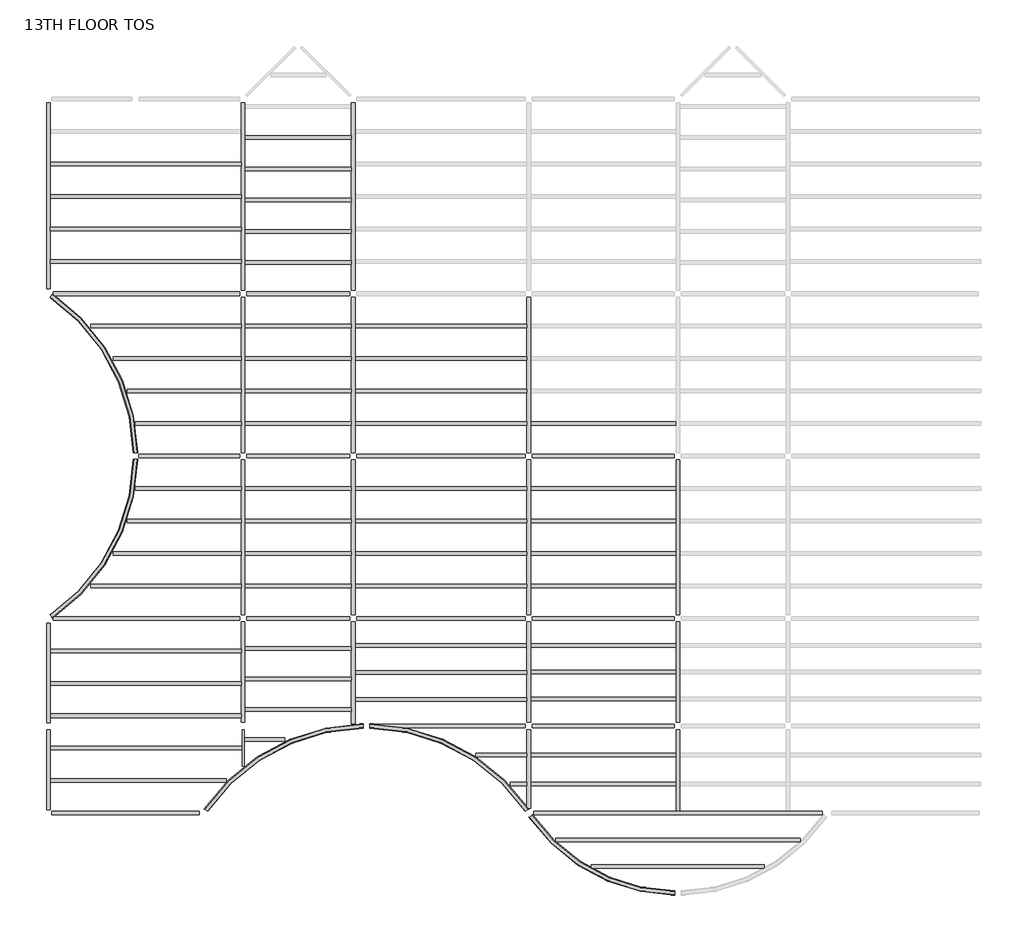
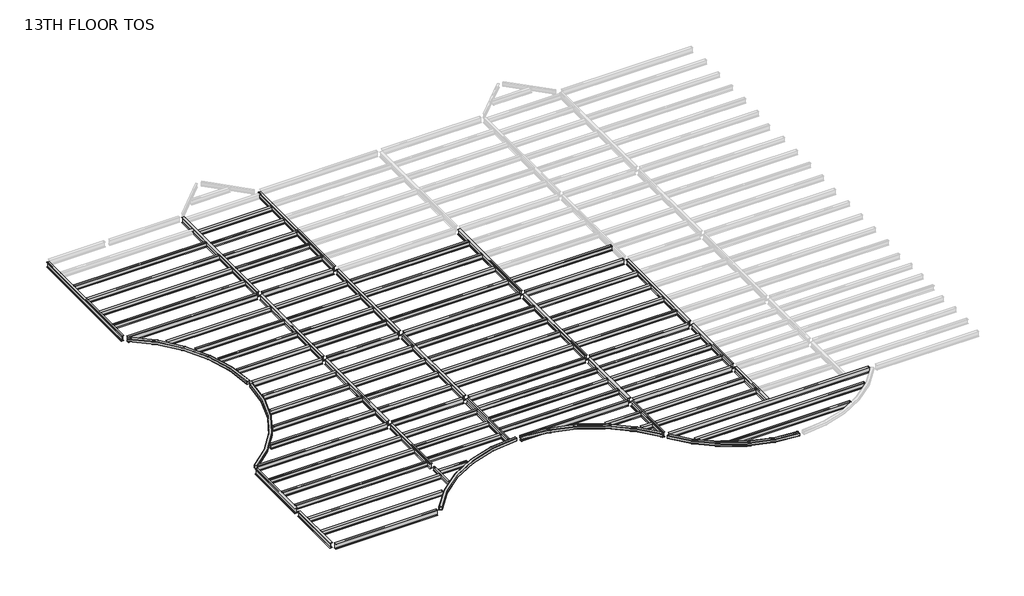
# One storey, part 1 of 2: 97 beams.
"""IFC4 building model written with IfcOpenShell, lengths in millimetres."""

from ifc_helpers import new_model, si_unit, origin, place, context, project, spatial, transform, mapped, element, save
from components import m_hss_square_hss203_2x203_2x9_5_914ff4eb, m_hss_square_hss203_2x203_2x9_5_0e3d8e6e, m_hss_square_hss203_2x203_2x9_5_16dc1c03, m_hss_square_hss203_2x203_2x9_5_18346204, m_hss_square_hss203_2x203_2x9_5_d5f1e8c4, ub_universal_beams_ub254x102x28_4e7f3726, ub_universal_beams_ub305x165x40_c4d0385b, ub_universal_beams_ub305x165x40_d3abc31d, ub_universal_beams_ub305x165x40_0c73730f, ub_universal_beams_ub305x165x40_2a963f0c, ub_universal_beams_ub305x165x40_0a5f2f96, ub_universal_beams_ub305x165x40_d1f7c369, ub_universal_beams_ub305x165x40_83d7b7d5, ub_universal_beams_ub305x165x40_729a4ea5, ub_universal_beams_ub305x165x40_71dfa851, ub_universal_beams_ub305x165x40_619b5398, ub_universal_beams_ub305x165x40_c3492db1, ub_universal_beams_ub305x165x40_8f1c350d, ub_universal_beams_ub305x165x40_3afb5f90, ub_universal_beams_ub305x165x40_767d1929, ub_universal_beams_ub305x165x40_5941ca45, ub_universal_beams_ub356x171x51_ef72dcdd, ub_universal_beams_ub356x171x51_7f80702c, ub_universal_beams_ub356x171x51_dfc36663, ub_universal_beams_ub356x171x51_405a853e, ub_universal_beams_ub356x171x51_e47b7055, ub_universal_beams_ub356x171x51_e97f8d2e, ub_universal_beams_ub356x171x51_11d6b780, ub_universal_beams_ub356x171x51_76b2d20b, ub_universal_beams_ub356x171x51_145ecd4b, ub_universal_beams_ub356x171x51_c7dff8d2, ub_universal_beams_ub356x171x51_834c6e34, ub_universal_beams_ub356x171x51_a38b99de, ub_universal_beams_ub356x171x51_d8f4cdde, ub_universal_beams_ub356x171x51_8094f821, ub_universal_beams_ub356x171x51_c03c70fb, ub_universal_beams_ub356x171x51_e661f2e4, ub_universal_beams_ub356x171x51_3ee91673, ub_universal_beams_ub356x171x51_a871b283, ub_universal_beams_ub356x171x51_741bae58

model = new_model("IFC4")

# Units and contexts
model_context = context("Model", 3, world=origin())
ifc_project = project(units=[si_unit("LENGTHUNIT", "METRE", prefix="MILLI")], contexts=[model_context])

# Site, building, storey
site = spatial("IfcSite", under=ifc_project)
building = spatial("IfcBuilding", under=site)
storey = spatial("IfcBuildingStorey", under=building, Name="13TH FLOOR TOS", Elevation=59283.6)

# Beams
placement = place(None, origin())
m_hss_square_hss203_2x203_2x9_5_shape = m_hss_square_hss203_2x203_2x9_5_914ff4eb(model_context)
element("IfcBeam", 1, ObjectType="M_HSS Square : HSS203.2X203.2X9.5", at=placement, inside=storey, context=model_context, shape_type="MappedRepresentation", body=[
    mapped(m_hss_square_hss203_2x203_2x9_5_shape, transform((22710.575, 155.575, 59182.1), x_axis=(-0.552849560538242, 0.8332810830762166, 0.0), y_axis=(-0.8332810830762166, -0.552849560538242, 0.0), z_axis=(0.0, 0.0, 1.0))),
])
m_hss_square_hss203_2x203_2x9_5_2_shape = m_hss_square_hss203_2x203_2x9_5_0e3d8e6e(model_context)
element("IfcBeam", 2, ObjectType="M_HSS Square : HSS203.2X203.2X9.5", at=placement, inside=storey, context=model_context, shape_type="MappedRepresentation", body=[
    mapped(m_hss_square_hss203_2x203_2x9_5_2_shape, transform((155.575, 9299.575, 59182.1), x_axis=(0.8332810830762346, 0.5528495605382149, 0.0), y_axis=(-0.5528495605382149, 0.8332810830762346, 0.0), z_axis=(0.0, 0.0, 1.0))),
])
m_hss_square_hss203_2x203_2x9_5_3_shape = m_hss_square_hss203_2x203_2x9_5_16dc1c03(model_context)
element("IfcBeam", 3, ObjectType="M_HSS Square : HSS203.2X203.2X9.5", at=placement, inside=storey, context=model_context, shape_type="MappedRepresentation", body=[
    mapped(m_hss_square_hss203_2x203_2x9_5_3_shape, transform((155.575, 24539.575, 59182.1), x_axis=(0.8332810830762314, -0.5528495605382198, 0.0), y_axis=(0.5528495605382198, 0.8332810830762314, 0.0), z_axis=(0.0, 0.0, 1.0))),
])
m_hss_square_hss203_2x203_2x9_5_4_shape = m_hss_square_hss203_2x203_2x9_5_18346204(model_context)
element("IfcBeam", 4, ObjectType="M_HSS Square : HSS203.2X203.2X9.5", at=placement, inside=storey, context=model_context, shape_type="MappedRepresentation", body=[
    mapped(m_hss_square_hss203_2x203_2x9_5_4_shape, transform((29734.7266693, -3601.398624, 59182.1), x_axis=(-0.9999968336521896, -0.0025164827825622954, 0.0), y_axis=(0.0025164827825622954, -0.9999968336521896, 0.0), z_axis=(0.0, 0.0, 1.0))),
])
m_hss_square_hss203_2x203_2x9_5_5_shape = m_hss_square_hss203_2x203_2x9_5_d5f1e8c4(model_context)
element("IfcBeam", 5, ObjectType="M_HSS Square : HSS203.2X203.2X9.5", at=placement, inside=storey, context=model_context, shape_type="MappedRepresentation", body=[
    mapped(m_hss_square_hss203_2x203_2x9_5_5_shape, transform((15096.4572854, 4244.5731081, 59182.1), x_axis=(-0.9999997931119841, 0.0006432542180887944, 0.0), y_axis=(-0.0006432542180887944, -0.9999997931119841, 0.0), z_axis=(0.0, 0.0, 1.0))),
])
ub_universal_beams_ub254x102x28_shape = ub_universal_beams_ub254x102x28_4e7f3726(model_context)
element("IfcBeam", 6, ObjectType="UB-Universal Beams : UB254x102x28", at=placement, inside=storey, context=model_context, shape_type="MappedRepresentation", body=[
    mapped(ub_universal_beams_ub254x102x28_shape, transform((9299.575, 3210.915913, 59153.4), x_axis=(0.0, -1.0, 0.0), y_axis=(1.0, 0.0, 0.0), z_axis=(0.0, 0.0, 1.0))),
])
ub_universal_beams_ub305x165x40_shape = ub_universal_beams_ub305x165x40_c4d0385b(model_context)
element("IfcBeam", 7, ObjectType="UB-Universal Beams : UB305x165x40", at=placement, inside=storey, context=model_context, shape_type="MappedRepresentation", body=[
    mapped(ub_universal_beams_ub305x165x40_shape, transform((4727.575, 30635.575, 59131.9), x_axis=(1.0, 0.0, 0.0), y_axis=(0.0, 1.0, 0.0), z_axis=(0.0, 0.0, 1.0))),
])
element("IfcBeam", 8, ObjectType="UB-Universal Beams : UB305x165x40", at=placement, inside=storey, context=model_context, shape_type="MappedRepresentation", body=[
    mapped(ub_universal_beams_ub305x165x40_shape, transform((4727.575, 29111.575, 59131.9), x_axis=(1.0, 0.0, 0.0), y_axis=(0.0, 1.0, 0.0), z_axis=(0.0, 0.0, 1.0))),
])
element("IfcBeam", 9, ObjectType="UB-Universal Beams : UB305x165x40", at=placement, inside=storey, context=model_context, shape_type="MappedRepresentation", body=[
    mapped(ub_universal_beams_ub305x165x40_shape, transform((4727.575, 27587.575, 59131.9), x_axis=(1.0, 0.0, 0.0), y_axis=(0.0, 1.0, 0.0), z_axis=(0.0, 0.0, 1.0))),
])
element("IfcBeam", 10, ObjectType="UB-Universal Beams : UB305x165x40", at=placement, inside=storey, context=model_context, shape_type="MappedRepresentation", body=[
    mapped(ub_universal_beams_ub305x165x40_shape, transform((4727.575, 26063.575, 59131.9), x_axis=(1.0, 0.0, 0.0), y_axis=(0.0, 1.0, 0.0), z_axis=(0.0, 0.0, 1.0))),
])
element("IfcBeam", 11, ObjectType="UB-Universal Beams : UB305x165x40", at=placement, inside=storey, context=model_context, shape_type="MappedRepresentation", body=[
    mapped(ub_universal_beams_ub305x165x40_shape, transform((4727.575, 4727.575, 59131.9), x_axis=(-1.0, 0.0, 0.0), y_axis=(0.0, -1.0, 0.0), z_axis=(0.0, 0.0, 1.0))),
])
element("IfcBeam", 12, ObjectType="UB-Universal Beams : UB305x165x40", at=placement, inside=storey, context=model_context, shape_type="MappedRepresentation", body=[
    mapped(ub_universal_beams_ub305x165x40_shape, transform((4727.575, 6251.575, 59131.9), x_axis=(-1.0, 0.0, 0.0), y_axis=(0.0, -1.0, 0.0), z_axis=(0.0, 0.0, 1.0))),
])
element("IfcBeam", 13, ObjectType="UB-Universal Beams : UB305x165x40", at=placement, inside=storey, context=model_context, shape_type="MappedRepresentation", body=[
    mapped(ub_universal_beams_ub305x165x40_shape, transform((4727.575, 7775.575, 59131.9), x_axis=(-1.0, 0.0, 0.0), y_axis=(0.0, -1.0, 0.0), z_axis=(0.0, 0.0, 1.0))),
])
ub_universal_beams_ub305x165x40_2_shape = ub_universal_beams_ub305x165x40_d3abc31d(model_context)
element("IfcBeam", 14, ObjectType="UB-Universal Beams : UB305x165x40", at=placement, inside=storey, context=model_context, shape_type="MappedRepresentation", body=[
    mapped(ub_universal_beams_ub305x165x40_2_shape, transform((11885.575, 31870.825, 59131.9), x_axis=(1.0, 0.0, 0.0), y_axis=(0.0, 1.0, 0.0), z_axis=(0.0, 0.0, 1.0))),
])
element("IfcBeam", 15, ObjectType="UB-Universal Beams : UB305x165x40", at=placement, inside=storey, context=model_context, shape_type="MappedRepresentation", body=[
    mapped(ub_universal_beams_ub305x165x40_2_shape, transform((11885.575, 30404.575, 59131.9), x_axis=(1.0, 0.0, 0.0), y_axis=(0.0, 1.0, 0.0), z_axis=(0.0, 0.0, 1.0))),
])
element("IfcBeam", 16, ObjectType="UB-Universal Beams : UB305x165x40", at=placement, inside=storey, context=model_context, shape_type="MappedRepresentation", body=[
    mapped(ub_universal_beams_ub305x165x40_2_shape, transform((11885.575, 28938.325, 59131.9), x_axis=(1.0, 0.0, 0.0), y_axis=(0.0, 1.0, 0.0), z_axis=(0.0, 0.0, 1.0))),
])
element("IfcBeam", 17, ObjectType="UB-Universal Beams : UB305x165x40", at=placement, inside=storey, context=model_context, shape_type="MappedRepresentation", body=[
    mapped(ub_universal_beams_ub305x165x40_2_shape, transform((11885.575, 27472.075, 59131.9), x_axis=(1.0, 0.0, 0.0), y_axis=(0.0, 1.0, 0.0), z_axis=(0.0, 0.0, 1.0))),
])
element("IfcBeam", 18, ObjectType="UB-Universal Beams : UB305x165x40", at=placement, inside=storey, context=model_context, shape_type="MappedRepresentation", body=[
    mapped(ub_universal_beams_ub305x165x40_2_shape, transform((11885.575, 26005.825, 59131.9), x_axis=(1.0, 0.0, 0.0), y_axis=(0.0, 1.0, 0.0), z_axis=(0.0, 0.0, 1.0))),
])
element("IfcBeam", 19, ObjectType="UB-Universal Beams : UB305x165x40", at=placement, inside=storey, context=model_context, shape_type="MappedRepresentation", body=[
    mapped(ub_universal_beams_ub305x165x40_2_shape, transform((11885.575, 23015.575, 59131.9), x_axis=(1.0, 0.0, 0.0), y_axis=(0.0, 1.0, 0.0), z_axis=(0.0, 0.0, 1.0))),
])
element("IfcBeam", 20, ObjectType="UB-Universal Beams : UB305x165x40", at=placement, inside=storey, context=model_context, shape_type="MappedRepresentation", body=[
    mapped(ub_universal_beams_ub305x165x40_2_shape, transform((11885.575, 21491.575, 59131.9), x_axis=(1.0, 0.0, 0.0), y_axis=(0.0, 1.0, 0.0), z_axis=(0.0, 0.0, 1.0))),
])
element("IfcBeam", 21, ObjectType="UB-Universal Beams : UB305x165x40", at=placement, inside=storey, context=model_context, shape_type="MappedRepresentation", body=[
    mapped(ub_universal_beams_ub305x165x40_2_shape, transform((11885.575, 19967.575, 59131.9), x_axis=(1.0, 0.0, 0.0), y_axis=(0.0, 1.0, 0.0), z_axis=(0.0, 0.0, 1.0))),
])
element("IfcBeam", 22, ObjectType="UB-Universal Beams : UB305x165x40", at=placement, inside=storey, context=model_context, shape_type="MappedRepresentation", body=[
    mapped(ub_universal_beams_ub305x165x40_2_shape, transform((11885.575, 18443.575, 59131.9), x_axis=(1.0, 0.0, 0.0), y_axis=(0.0, 1.0, 0.0), z_axis=(0.0, 0.0, 1.0))),
])
element("IfcBeam", 23, ObjectType="UB-Universal Beams : UB305x165x40", at=placement, inside=storey, context=model_context, shape_type="MappedRepresentation", body=[
    mapped(ub_universal_beams_ub305x165x40_2_shape, transform((11885.575, 15395.575, 59131.9), x_axis=(1.0, 0.0, 0.0), y_axis=(0.0, 1.0, 0.0), z_axis=(0.0, 0.0, 1.0))),
])
element("IfcBeam", 24, ObjectType="UB-Universal Beams : UB305x165x40", at=placement, inside=storey, context=model_context, shape_type="MappedRepresentation", body=[
    mapped(ub_universal_beams_ub305x165x40_2_shape, transform((11885.575, 13871.575, 59131.9), x_axis=(1.0, 0.0, 0.0), y_axis=(0.0, 1.0, 0.0), z_axis=(0.0, 0.0, 1.0))),
])
element("IfcBeam", 25, ObjectType="UB-Universal Beams : UB305x165x40", at=placement, inside=storey, context=model_context, shape_type="MappedRepresentation", body=[
    mapped(ub_universal_beams_ub305x165x40_2_shape, transform((11885.575, 12347.575, 59131.9), x_axis=(1.0, 0.0, 0.0), y_axis=(0.0, 1.0, 0.0), z_axis=(0.0, 0.0, 1.0))),
])
element("IfcBeam", 26, ObjectType="UB-Universal Beams : UB305x165x40", at=placement, inside=storey, context=model_context, shape_type="MappedRepresentation", body=[
    mapped(ub_universal_beams_ub305x165x40_2_shape, transform((11885.575, 10823.575, 59131.9), x_axis=(1.0, 0.0, 0.0), y_axis=(0.0, 1.0, 0.0), z_axis=(0.0, 0.0, 1.0))),
])
element("IfcBeam", 27, ObjectType="UB-Universal Beams : UB305x165x40", at=placement, inside=storey, context=model_context, shape_type="MappedRepresentation", body=[
    mapped(ub_universal_beams_ub305x165x40_2_shape, transform((11885.575, 5026.1840956, 59131.9), x_axis=(-1.0, 0.0, 0.0), y_axis=(0.0, -1.0, 0.0), z_axis=(0.0, 0.0, 1.0))),
])
element("IfcBeam", 28, ObjectType="UB-Universal Beams : UB305x165x40", at=placement, inside=storey, context=model_context, shape_type="MappedRepresentation", body=[
    mapped(ub_universal_beams_ub305x165x40_2_shape, transform((11885.575, 6450.6477304, 59131.9), x_axis=(-1.0, 0.0, 0.0), y_axis=(0.0, -1.0, 0.0), z_axis=(0.0, 0.0, 1.0))),
])
element("IfcBeam", 29, ObjectType="UB-Universal Beams : UB305x165x40", at=placement, inside=storey, context=model_context, shape_type="MappedRepresentation", body=[
    mapped(ub_universal_beams_ub305x165x40_2_shape, transform((11885.575, 7875.1113652, 59131.9), x_axis=(-1.0, 0.0, 0.0), y_axis=(0.0, -1.0, 0.0), z_axis=(0.0, 0.0, 1.0))),
])
ub_universal_beams_ub305x165x40_3_shape = ub_universal_beams_ub305x165x40_0c73730f(model_context)
element("IfcBeam", 30, ObjectType="UB-Universal Beams : UB305x165x40", at=placement, inside=storey, context=model_context, shape_type="MappedRepresentation", body=[
    mapped(ub_universal_beams_ub305x165x40_3_shape, transform((18591.075, 5492.5943214, 59131.9), x_axis=(-1.0, 0.0, 0.0), y_axis=(0.0, -1.0, 0.0), z_axis=(0.0, 0.0, 1.0))),
])
element("IfcBeam", 31, ObjectType="UB-Universal Beams : UB305x165x40", at=placement, inside=storey, context=model_context, shape_type="MappedRepresentation", body=[
    mapped(ub_universal_beams_ub305x165x40_3_shape, transform((18591.075, 6761.5878809, 59131.9), x_axis=(-1.0, 0.0, 0.0), y_axis=(0.0, -1.0, 0.0), z_axis=(0.0, 0.0, 1.0))),
])
element("IfcBeam", 32, ObjectType="UB-Universal Beams : UB305x165x40", at=placement, inside=storey, context=model_context, shape_type="MappedRepresentation", body=[
    mapped(ub_universal_beams_ub305x165x40_3_shape, transform((18591.075, 8030.5814405, 59131.9), x_axis=(-1.0, 0.0, 0.0), y_axis=(0.0, -1.0, 0.0), z_axis=(0.0, 0.0, 1.0))),
])
element("IfcBeam", 33, ObjectType="UB-Universal Beams : UB305x165x40", at=placement, inside=storey, context=model_context, shape_type="MappedRepresentation", body=[
    mapped(ub_universal_beams_ub305x165x40_3_shape, transform((18591.075, 15395.575, 59131.9), x_axis=(1.0, 0.0, 0.0), y_axis=(0.0, 1.0, 0.0), z_axis=(0.0, 0.0, 1.0))),
])
element("IfcBeam", 34, ObjectType="UB-Universal Beams : UB305x165x40", at=placement, inside=storey, context=model_context, shape_type="MappedRepresentation", body=[
    mapped(ub_universal_beams_ub305x165x40_3_shape, transform((18591.075, 13871.575, 59131.9), x_axis=(1.0, 0.0, 0.0), y_axis=(0.0, 1.0, 0.0), z_axis=(0.0, 0.0, 1.0))),
])
element("IfcBeam", 35, ObjectType="UB-Universal Beams : UB305x165x40", at=placement, inside=storey, context=model_context, shape_type="MappedRepresentation", body=[
    mapped(ub_universal_beams_ub305x165x40_3_shape, transform((18591.075, 12347.575, 59131.9), x_axis=(1.0, 0.0, 0.0), y_axis=(0.0, 1.0, 0.0), z_axis=(0.0, 0.0, 1.0))),
])
element("IfcBeam", 36, ObjectType="UB-Universal Beams : UB305x165x40", at=placement, inside=storey, context=model_context, shape_type="MappedRepresentation", body=[
    mapped(ub_universal_beams_ub305x165x40_3_shape, transform((18591.075, 10823.575, 59131.9), x_axis=(1.0, 0.0, 0.0), y_axis=(0.0, 1.0, 0.0), z_axis=(0.0, 0.0, 1.0))),
])
element("IfcBeam", 37, ObjectType="UB-Universal Beams : UB305x165x40", at=placement, inside=storey, context=model_context, shape_type="MappedRepresentation", body=[
    mapped(ub_universal_beams_ub305x165x40_3_shape, transform((18591.075, 23015.575, 59131.9), x_axis=(1.0, 0.0, 0.0), y_axis=(0.0, 1.0, 0.0), z_axis=(0.0, 0.0, 1.0))),
])
element("IfcBeam", 38, ObjectType="UB-Universal Beams : UB305x165x40", at=placement, inside=storey, context=model_context, shape_type="MappedRepresentation", body=[
    mapped(ub_universal_beams_ub305x165x40_3_shape, transform((18591.075, 21491.575, 59131.9), x_axis=(1.0, 0.0, 0.0), y_axis=(0.0, 1.0, 0.0), z_axis=(0.0, 0.0, 1.0))),
])
element("IfcBeam", 39, ObjectType="UB-Universal Beams : UB305x165x40", at=placement, inside=storey, context=model_context, shape_type="MappedRepresentation", body=[
    mapped(ub_universal_beams_ub305x165x40_3_shape, transform((18591.075, 19967.575, 59131.9), x_axis=(1.0, 0.0, 0.0), y_axis=(0.0, 1.0, 0.0), z_axis=(0.0, 0.0, 1.0))),
])
element("IfcBeam", 40, ObjectType="UB-Universal Beams : UB305x165x40", at=placement, inside=storey, context=model_context, shape_type="MappedRepresentation", body=[
    mapped(ub_universal_beams_ub305x165x40_3_shape, transform((18591.075, 18443.575, 59131.9), x_axis=(1.0, 0.0, 0.0), y_axis=(0.0, 1.0, 0.0), z_axis=(0.0, 0.0, 1.0))),
])
ub_universal_beams_ub305x165x40_4_shape = ub_universal_beams_ub305x165x40_2a963f0c(model_context)
element("IfcBeam", 41, ObjectType="UB-Universal Beams : UB305x165x40", at=placement, inside=storey, context=model_context, shape_type="MappedRepresentation", body=[
    mapped(ub_universal_beams_ub305x165x40_4_shape, transform((26211.075, 18443.575, 59131.9), x_axis=(1.0, 0.0, 0.0), y_axis=(0.0, 1.0, 0.0), z_axis=(0.0, 0.0, 1.0))),
])
element("IfcBeam", 42, ObjectType="UB-Universal Beams : UB305x165x40", at=placement, inside=storey, context=model_context, shape_type="MappedRepresentation", body=[
    mapped(ub_universal_beams_ub305x165x40_4_shape, transform((26211.075, 15395.575, 59131.9), x_axis=(1.0, 0.0, 0.0), y_axis=(0.0, 1.0, 0.0), z_axis=(0.0, 0.0, 1.0))),
])
element("IfcBeam", 43, ObjectType="UB-Universal Beams : UB305x165x40", at=placement, inside=storey, context=model_context, shape_type="MappedRepresentation", body=[
    mapped(ub_universal_beams_ub305x165x40_4_shape, transform((26211.075, 13871.575, 59131.9), x_axis=(1.0, 0.0, 0.0), y_axis=(0.0, 1.0, 0.0), z_axis=(0.0, 0.0, 1.0))),
])
element("IfcBeam", 44, ObjectType="UB-Universal Beams : UB305x165x40", at=placement, inside=storey, context=model_context, shape_type="MappedRepresentation", body=[
    mapped(ub_universal_beams_ub305x165x40_4_shape, transform((26211.075, 12347.575, 59131.9), x_axis=(1.0, 0.0, 0.0), y_axis=(0.0, 1.0, 0.0), z_axis=(0.0, 0.0, 1.0))),
])
element("IfcBeam", 45, ObjectType="UB-Universal Beams : UB305x165x40", at=placement, inside=storey, context=model_context, shape_type="MappedRepresentation", body=[
    mapped(ub_universal_beams_ub305x165x40_4_shape, transform((26211.075, 10823.575, 59131.9), x_axis=(1.0, 0.0, 0.0), y_axis=(0.0, 1.0, 0.0), z_axis=(0.0, 0.0, 1.0))),
])
element("IfcBeam", 46, ObjectType="UB-Universal Beams : UB305x165x40", at=placement, inside=storey, context=model_context, shape_type="MappedRepresentation", body=[
    mapped(ub_universal_beams_ub305x165x40_4_shape, transform((26211.075, 5508.325, 59131.9), x_axis=(-1.0, 0.0, 0.0), y_axis=(0.0, -1.0, 0.0), z_axis=(0.0, 0.0, 1.0))),
])
element("IfcBeam", 47, ObjectType="UB-Universal Beams : UB305x165x40", at=placement, inside=storey, context=model_context, shape_type="MappedRepresentation", body=[
    mapped(ub_universal_beams_ub305x165x40_4_shape, transform((26211.075, 6772.075, 59131.9), x_axis=(-1.0, 0.0, 0.0), y_axis=(0.0, -1.0, 0.0), z_axis=(0.0, 0.0, 1.0))),
])
element("IfcBeam", 48, ObjectType="UB-Universal Beams : UB305x165x40", at=placement, inside=storey, context=model_context, shape_type="MappedRepresentation", body=[
    mapped(ub_universal_beams_ub305x165x40_4_shape, transform((26211.075, 8035.825, 59131.9), x_axis=(-1.0, 0.0, 0.0), y_axis=(0.0, -1.0, 0.0), z_axis=(0.0, 0.0, 1.0))),
])
element("IfcBeam", 49, ObjectType="UB-Universal Beams : UB305x165x40", at=placement, inside=storey, context=model_context, shape_type="MappedRepresentation", body=[
    mapped(ub_universal_beams_ub305x165x40_4_shape, transform((26211.075, 1518.575, 59131.9), x_axis=(-1.0, 0.0, 0.0), y_axis=(0.0, -1.0, 0.0), z_axis=(0.0, 0.0, 1.0))),
])
element("IfcBeam", 50, ObjectType="UB-Universal Beams : UB305x165x40", at=placement, inside=storey, context=model_context, shape_type="MappedRepresentation", body=[
    mapped(ub_universal_beams_ub305x165x40_4_shape, transform((26211.075, 2881.575, 59131.9), x_axis=(-1.0, 0.0, 0.0), y_axis=(0.0, -1.0, 0.0), z_axis=(0.0, 0.0, 1.0))),
])
ub_universal_beams_ub305x165x40_5_shape = ub_universal_beams_ub305x165x40_0a5f2f96(model_context)
element("IfcBeam", 51, ObjectType="UB-Universal Beams : UB305x165x40", at=placement, inside=storey, context=model_context, shape_type="MappedRepresentation", body=[
    mapped(ub_universal_beams_ub305x165x40_5_shape, transform((29713.575, -2349.0918253, 59131.9), x_axis=(-1.0, 0.0, 0.0), y_axis=(0.0, -1.0, 0.0), z_axis=(0.0, 0.0, 1.0))),
])
ub_universal_beams_ub305x165x40_6_shape = ub_universal_beams_ub305x165x40_d1f7c369(model_context)
element("IfcBeam", 52, ObjectType="UB-Universal Beams : UB305x165x40", at=placement, inside=storey, context=model_context, shape_type="MappedRepresentation", body=[
    mapped(ub_universal_beams_ub305x165x40_6_shape, transform((29713.575, -1096.7584126, 59131.9), x_axis=(-1.0, 0.0, 0.0), y_axis=(0.0, -1.0, 0.0), z_axis=(0.0, 0.0, 1.0))),
])
ub_universal_beams_ub305x165x40_7_shape = ub_universal_beams_ub305x165x40_83d7b7d5(model_context)
element("IfcBeam", 53, ObjectType="UB-Universal Beams : UB305x165x40", at=placement, inside=storey, context=model_context, shape_type="MappedRepresentation", body=[
    mapped(ub_universal_beams_ub305x165x40_7_shape, transform((22157.3041106, 1518.575, 59131.9), x_axis=(-1.0, 0.0, 0.0), y_axis=(0.0, -1.0, 0.0), z_axis=(0.0, 0.0, 1.0))),
])
ub_universal_beams_ub305x165x40_8_shape = ub_universal_beams_ub305x165x40_729a4ea5(model_context)
element("IfcBeam", 54, ObjectType="UB-Universal Beams : UB305x165x40", at=placement, inside=storey, context=model_context, shape_type="MappedRepresentation", body=[
    mapped(ub_universal_beams_ub305x165x40_8_shape, transform((21302.1545844, 2881.575, 59131.9), x_axis=(-1.0, 0.0, 0.0), y_axis=(0.0, -1.0, 0.0), z_axis=(0.0, 0.0, 1.0))),
])
ub_universal_beams_ub305x165x40_9_shape = ub_universal_beams_ub305x165x40_71dfa851(model_context)
element("IfcBeam", 55, ObjectType="UB-Universal Beams : UB305x165x40", at=placement, inside=storey, context=model_context, shape_type="MappedRepresentation", body=[
    mapped(ub_universal_beams_ub305x165x40_9_shape, transform((10511.0323166, 3601.7204608, 59131.9), x_axis=(-1.0, 0.0, 0.0), y_axis=(0.0, -1.0, 0.0), z_axis=(0.0, 0.0, 1.0))),
])
ub_universal_beams_ub305x165x40_10_shape = ub_universal_beams_ub305x165x40_619b5398(model_context)
element("IfcBeam", 56, ObjectType="UB-Universal Beams : UB305x165x40", at=placement, inside=storey, context=model_context, shape_type="MappedRepresentation", body=[
    mapped(ub_universal_beams_ub305x165x40_10_shape, transform((4447.6838282, 1679.575, 59131.9), x_axis=(-1.0, 0.0, 0.0), y_axis=(0.0, -1.0, 0.0), z_axis=(0.0, 0.0, 1.0))),
])
ub_universal_beams_ub305x165x40_11_shape = ub_universal_beams_ub305x165x40_c3492db1(model_context)
element("IfcBeam", 57, ObjectType="UB-Universal Beams : UB305x165x40", at=placement, inside=storey, context=model_context, shape_type="MappedRepresentation", body=[
    mapped(ub_universal_beams_ub305x165x40_11_shape, transform((4727.575, 3203.575, 59131.9), x_axis=(-1.0, 0.0, 0.0), y_axis=(0.0, -1.0, 0.0), z_axis=(0.0, 0.0, 1.0))),
])
ub_universal_beams_ub305x165x40_12_shape = ub_universal_beams_ub305x165x40_8f1c350d(model_context)
element("IfcBeam", 58, ObjectType="UB-Universal Beams : UB305x165x40", at=placement, inside=storey, context=model_context, shape_type="MappedRepresentation", body=[
    mapped(ub_universal_beams_ub305x165x40_12_shape, transform((6708.1318611, 15395.575, 59131.9), x_axis=(1.0, 0.0, 0.0), y_axis=(0.0, 1.0, 0.0), z_axis=(0.0, 0.0, 1.0))),
])
element("IfcBeam", 59, ObjectType="UB-Universal Beams : UB305x165x40", at=placement, inside=storey, context=model_context, shape_type="MappedRepresentation", body=[
    mapped(ub_universal_beams_ub305x165x40_12_shape, transform((6708.1318611, 18443.575, 59131.9), x_axis=(1.0, 0.0, 0.0), y_axis=(0.0, 1.0, 0.0), z_axis=(0.0, 0.0, 1.0))),
])
ub_universal_beams_ub305x165x40_13_shape = ub_universal_beams_ub305x165x40_3afb5f90(model_context)
element("IfcBeam", 60, ObjectType="UB-Universal Beams : UB305x165x40", at=placement, inside=storey, context=model_context, shape_type="MappedRepresentation", body=[
    mapped(ub_universal_beams_ub305x165x40_13_shape, transform((6510.6153272, 13871.575, 59131.9), x_axis=(1.0, 0.0, 0.0), y_axis=(0.0, 1.0, 0.0), z_axis=(0.0, 0.0, 1.0))),
])
element("IfcBeam", 61, ObjectType="UB-Universal Beams : UB305x165x40", at=placement, inside=storey, context=model_context, shape_type="MappedRepresentation", body=[
    mapped(ub_universal_beams_ub305x165x40_13_shape, transform((6510.6153272, 19967.575, 59131.9), x_axis=(1.0, 0.0, 0.0), y_axis=(0.0, 1.0, 0.0), z_axis=(0.0, 0.0, 1.0))),
])
ub_universal_beams_ub305x165x40_14_shape = ub_universal_beams_ub305x165x40_767d1929(model_context)
element("IfcBeam", 62, ObjectType="UB-Universal Beams : UB305x165x40", at=placement, inside=storey, context=model_context, shape_type="MappedRepresentation", body=[
    mapped(ub_universal_beams_ub305x165x40_14_shape, transform((6159.5874928, 12347.575, 59131.9), x_axis=(1.0, 0.0, 0.0), y_axis=(0.0, 1.0, 0.0), z_axis=(0.0, 0.0, 1.0))),
])
element("IfcBeam", 63, ObjectType="UB-Universal Beams : UB305x165x40", at=placement, inside=storey, context=model_context, shape_type="MappedRepresentation", body=[
    mapped(ub_universal_beams_ub305x165x40_14_shape, transform((6159.5874928, 21491.575, 59131.9), x_axis=(1.0, 0.0, 0.0), y_axis=(0.0, 1.0, 0.0), z_axis=(0.0, 0.0, 1.0))),
])
ub_universal_beams_ub305x165x40_15_shape = ub_universal_beams_ub305x165x40_5941ca45(model_context)
element("IfcBeam", 64, ObjectType="UB-Universal Beams : UB305x165x40", at=placement, inside=storey, context=model_context, shape_type="MappedRepresentation", body=[
    mapped(ub_universal_beams_ub305x165x40_15_shape, transform((5607.9405309, 10823.575, 59131.9), x_axis=(1.0, 0.0, 0.0), y_axis=(0.0, 1.0, 0.0), z_axis=(0.0, 0.0, 1.0))),
])
element("IfcBeam", 65, ObjectType="UB-Universal Beams : UB305x165x40", at=placement, inside=storey, context=model_context, shape_type="MappedRepresentation", body=[
    mapped(ub_universal_beams_ub305x165x40_15_shape, transform((5607.9405309, 23015.575, 59131.9), x_axis=(1.0, 0.0, 0.0), y_axis=(0.0, 1.0, 0.0), z_axis=(0.0, 0.0, 1.0))),
])
ub_universal_beams_ub356x171x51_shape = ub_universal_beams_ub356x171x51_ef72dcdd(model_context)
element("IfcBeam", 66, ObjectType="UB-Universal Beams : UB356x171x51", at=placement, inside=storey, context=model_context, shape_type="MappedRepresentation", body=[
    mapped(ub_universal_beams_ub356x171x51_shape, transform((9299.575, 6772.075, 59106.1), x_axis=(0.0, -1.0, 0.0), y_axis=(1.0, 0.0, 0.0), z_axis=(0.0, 0.0, 1.0))),
])
element("IfcBeam", 67, ObjectType="UB-Universal Beams : UB356x171x51", at=placement, inside=storey, context=model_context, shape_type="MappedRepresentation", body=[
    mapped(ub_universal_beams_ub356x171x51_shape, transform((29711.575, 6772.075, 59106.1), x_axis=(0.0, 1.0, 0.0), y_axis=(-1.0, 0.0, 0.0), z_axis=(0.0, 0.0, 1.0))),
])
element("IfcBeam", 68, ObjectType="UB-Universal Beams : UB356x171x51", at=placement, inside=storey, context=model_context, shape_type="MappedRepresentation", body=[
    mapped(ub_universal_beams_ub356x171x51_shape, transform((22710.575, 6772.075, 59106.1), x_axis=(0.0, -1.0, 0.0), y_axis=(1.0, 0.0, 0.0), z_axis=(0.0, 0.0, 1.0))),
])
ub_universal_beams_ub356x171x51_2_shape = ub_universal_beams_ub356x171x51_7f80702c(model_context)
element("IfcBeam", 69, ObjectType="UB-Universal Beams : UB356x171x51", at=placement, inside=storey, context=model_context, shape_type="MappedRepresentation", body=[
    mapped(ub_universal_beams_ub356x171x51_2_shape, transform((3813.075, 155.575, 59106.1), x_axis=(-1.0, 0.0, 0.0), y_axis=(0.0, -1.0, 0.0), z_axis=(0.0, 0.0, 1.0))),
])
ub_universal_beams_ub356x171x51_3_shape = ub_universal_beams_ub356x171x51_dfc36663(model_context)
element("IfcBeam", 70, ObjectType="UB-Universal Beams : UB356x171x51", at=placement, inside=storey, context=model_context, shape_type="MappedRepresentation", body=[
    mapped(ub_universal_beams_ub356x171x51_3_shape, transform((155.575, 2200.075, 59106.1), x_axis=(0.0, 1.0, 0.0), y_axis=(-1.0, 0.0, 0.0), z_axis=(0.0, 0.0, 1.0))),
])
ub_universal_beams_ub356x171x51_4_shape = ub_universal_beams_ub356x171x51_405a853e(model_context)
element("IfcBeam", 71, ObjectType="UB-Universal Beams : UB356x171x51", at=placement, inside=storey, context=model_context, shape_type="MappedRepresentation", body=[
    mapped(ub_universal_beams_ub356x171x51_4_shape, transform((155.575, 6772.075, 59106.1), x_axis=(0.0, 1.0, 0.0), y_axis=(-1.0, 0.0, 0.0), z_axis=(0.0, 0.0, 1.0))),
])
ub_universal_beams_ub356x171x51_5_shape = ub_universal_beams_ub356x171x51_e47b7055(model_context)
element("IfcBeam", 72, ObjectType="UB-Universal Beams : UB356x171x51", at=placement, inside=storey, context=model_context, shape_type="MappedRepresentation", body=[
    mapped(ub_universal_beams_ub356x171x51_5_shape, transform((155.575, 29111.575, 59106.1), x_axis=(0.0, 1.0, 0.0), y_axis=(-1.0, 0.0, 0.0), z_axis=(0.0, 0.0, 1.0))),
])
ub_universal_beams_ub356x171x51_6_shape = ub_universal_beams_ub356x171x51_e97f8d2e(model_context)
element("IfcBeam", 73, ObjectType="UB-Universal Beams : UB356x171x51", at=placement, inside=storey, context=model_context, shape_type="MappedRepresentation", body=[
    mapped(ub_universal_beams_ub356x171x51_6_shape, transform((4727.575, 24539.575, 59106.1), x_axis=(1.0, 0.0, 0.0), y_axis=(0.0, 1.0, 0.0), z_axis=(0.0, 0.0, 1.0))),
])
ub_universal_beams_ub356x171x51_7_shape = ub_universal_beams_ub356x171x51_11d6b780(model_context)
element("IfcBeam", 74, ObjectType="UB-Universal Beams : UB356x171x51", at=placement, inside=storey, context=model_context, shape_type="MappedRepresentation", body=[
    mapped(ub_universal_beams_ub356x171x51_7_shape, transform((11885.575, 24539.575, 59106.1), x_axis=(1.0, 0.0, 0.0), y_axis=(0.0, 1.0, 0.0), z_axis=(0.0, 0.0, 1.0))),
])
element("IfcBeam", 75, ObjectType="UB-Universal Beams : UB356x171x51", at=placement, inside=storey, context=model_context, shape_type="MappedRepresentation", body=[
    mapped(ub_universal_beams_ub356x171x51_7_shape, transform((11885.575, 9299.575, 59106.1), x_axis=(-1.0, 0.0, 0.0), y_axis=(0.0, -1.0, 0.0), z_axis=(0.0, 0.0, 1.0))),
])
element("IfcBeam", 76, ObjectType="UB-Universal Beams : UB356x171x51", at=placement, inside=storey, context=model_context, shape_type="MappedRepresentation", body=[
    mapped(ub_universal_beams_ub356x171x51_7_shape, transform((11885.575, 16919.575, 59106.1), x_axis=(1.0, 0.0, 0.0), y_axis=(0.0, 1.0, 0.0), z_axis=(0.0, 0.0, 1.0))),
])
ub_universal_beams_ub356x171x51_8_shape = ub_universal_beams_ub356x171x51_76b2d20b(model_context)
element("IfcBeam", 77, ObjectType="UB-Universal Beams : UB356x171x51", at=placement, inside=storey, context=model_context, shape_type="MappedRepresentation", body=[
    mapped(ub_universal_beams_ub356x171x51_8_shape, transform((18591.075, 9299.575, 59106.1), x_axis=(-1.0, 0.0, 0.0), y_axis=(0.0, -1.0, 0.0), z_axis=(0.0, 0.0, 1.0))),
])
element("IfcBeam", 78, ObjectType="UB-Universal Beams : UB356x171x51", at=placement, inside=storey, context=model_context, shape_type="MappedRepresentation", body=[
    mapped(ub_universal_beams_ub356x171x51_8_shape, transform((18591.075, 16919.575, 59106.1), x_axis=(1.0, 0.0, 0.0), y_axis=(0.0, 1.0, 0.0), z_axis=(0.0, 0.0, 1.0))),
])
ub_universal_beams_ub356x171x51_9_shape = ub_universal_beams_ub356x171x51_145ecd4b(model_context)
element("IfcBeam", 79, ObjectType="UB-Universal Beams : UB356x171x51", at=placement, inside=storey, context=model_context, shape_type="MappedRepresentation", body=[
    mapped(ub_universal_beams_ub356x171x51_9_shape, transform((26211.075, 9299.575, 59106.1), x_axis=(-1.0, 0.0, 0.0), y_axis=(0.0, -1.0, 0.0), z_axis=(0.0, 0.0, 1.0))),
])
element("IfcBeam", 80, ObjectType="UB-Universal Beams : UB356x171x51", at=placement, inside=storey, context=model_context, shape_type="MappedRepresentation", body=[
    mapped(ub_universal_beams_ub356x171x51_9_shape, transform((26211.075, 16919.575, 59106.1), x_axis=(1.0, 0.0, 0.0), y_axis=(0.0, 1.0, 0.0), z_axis=(0.0, 0.0, 1.0))),
])
element("IfcBeam", 81, ObjectType="UB-Universal Beams : UB356x171x51", at=placement, inside=storey, context=model_context, shape_type="MappedRepresentation", body=[
    mapped(ub_universal_beams_ub356x171x51_9_shape, transform((26211.075, 4244.575, 59106.1), x_axis=(-1.0, 0.0, 0.0), y_axis=(0.0, -1.0, 0.0), z_axis=(0.0, 0.0, 1.0))),
])
ub_universal_beams_ub356x171x51_10_shape = ub_universal_beams_ub356x171x51_c7dff8d2(model_context)
element("IfcBeam", 82, ObjectType="UB-Universal Beams : UB356x171x51", at=placement, inside=storey, context=model_context, shape_type="MappedRepresentation", body=[
    mapped(ub_universal_beams_ub356x171x51_10_shape, transform((4727.575, 9299.575, 59106.1), x_axis=(-1.0, 0.0, 0.0), y_axis=(0.0, -1.0, 0.0), z_axis=(0.0, 0.0, 1.0))),
])
ub_universal_beams_ub356x171x51_11_shape = ub_universal_beams_ub356x171x51_834c6e34(model_context)
element("IfcBeam", 83, ObjectType="UB-Universal Beams : UB356x171x51", at=placement, inside=storey, context=model_context, shape_type="MappedRepresentation", body=[
    mapped(ub_universal_beams_ub356x171x51_11_shape, transform((14471.575, 6761.5878809, 59106.1), x_axis=(0.0, -1.0, 0.0), y_axis=(1.0, 0.0, 0.0), z_axis=(0.0, 0.0, 1.0))),
])
ub_universal_beams_ub356x171x51_12_shape = ub_universal_beams_ub356x171x51_a38b99de(model_context)
element("IfcBeam", 84, ObjectType="UB-Universal Beams : UB356x171x51", at=placement, inside=storey, context=model_context, shape_type="MappedRepresentation", body=[
    mapped(ub_universal_beams_ub356x171x51_12_shape, transform((9299.575, 13109.575, 59106.1), x_axis=(0.0, 1.0, 0.0), y_axis=(-1.0, 0.0, 0.0), z_axis=(0.0, 0.0, 1.0))),
])
element("IfcBeam", 85, ObjectType="UB-Universal Beams : UB356x171x51", at=placement, inside=storey, context=model_context, shape_type="MappedRepresentation", body=[
    mapped(ub_universal_beams_ub356x171x51_12_shape, transform((9299.575, 20729.575, 59106.1), x_axis=(0.0, 1.0, 0.0), y_axis=(-1.0, 0.0, 0.0), z_axis=(0.0, 0.0, 1.0))),
])
element("IfcBeam", 86, ObjectType="UB-Universal Beams : UB356x171x51", at=placement, inside=storey, context=model_context, shape_type="MappedRepresentation", body=[
    mapped(ub_universal_beams_ub356x171x51_12_shape, transform((14471.575, 20729.575, 59106.1), x_axis=(0.0, -1.0, 0.0), y_axis=(1.0, 0.0, 0.0), z_axis=(0.0, 0.0, 1.0))),
])
element("IfcBeam", 87, ObjectType="UB-Universal Beams : UB356x171x51", at=placement, inside=storey, context=model_context, shape_type="MappedRepresentation", body=[
    mapped(ub_universal_beams_ub356x171x51_12_shape, transform((14471.575, 13109.575, 59106.1), x_axis=(0.0, -1.0, 0.0), y_axis=(1.0, 0.0, 0.0), z_axis=(0.0, 0.0, 1.0))),
])
element("IfcBeam", 88, ObjectType="UB-Universal Beams : UB356x171x51", at=placement, inside=storey, context=model_context, shape_type="MappedRepresentation", body=[
    mapped(ub_universal_beams_ub356x171x51_12_shape, transform((22710.575, 20729.575, 59106.1), x_axis=(0.0, -1.0, 0.0), y_axis=(1.0, 0.0, 0.0), z_axis=(0.0, 0.0, 1.0))),
])
element("IfcBeam", 89, ObjectType="UB-Universal Beams : UB356x171x51", at=placement, inside=storey, context=model_context, shape_type="MappedRepresentation", body=[
    mapped(ub_universal_beams_ub356x171x51_12_shape, transform((22710.575, 13109.575, 59106.1), x_axis=(0.0, -1.0, 0.0), y_axis=(1.0, 0.0, 0.0), z_axis=(0.0, 0.0, 1.0))),
])
element("IfcBeam", 90, ObjectType="UB-Universal Beams : UB356x171x51", at=placement, inside=storey, context=model_context, shape_type="MappedRepresentation", body=[
    mapped(ub_universal_beams_ub356x171x51_12_shape, transform((29711.575, 13109.575, 59106.1), x_axis=(0.0, 1.0, 0.0), y_axis=(-1.0, 0.0, 0.0), z_axis=(0.0, 0.0, 1.0))),
])
ub_universal_beams_ub356x171x51_13_shape = ub_universal_beams_ub356x171x51_d8f4cdde(model_context)
element("IfcBeam", 91, ObjectType="UB-Universal Beams : UB356x171x51", at=placement, inside=storey, context=model_context, shape_type="MappedRepresentation", body=[
    mapped(ub_universal_beams_ub356x171x51_13_shape, transform((9299.575, 29111.575, 59106.1), x_axis=(0.0, 1.0, 0.0), y_axis=(-1.0, 0.0, 0.0), z_axis=(0.0, 0.0, 1.0))),
])
ub_universal_beams_ub356x171x51_14_shape = ub_universal_beams_ub356x171x51_8094f821(model_context)
element("IfcBeam", 92, ObjectType="UB-Universal Beams : UB356x171x51", at=placement, inside=storey, context=model_context, shape_type="MappedRepresentation", body=[
    mapped(ub_universal_beams_ub356x171x51_14_shape, transform((6772.075, 16919.575, 59106.1), x_axis=(1.0, 0.0, 0.0), y_axis=(0.0, 1.0, 0.0), z_axis=(0.0, 0.0, 1.0))),
])
ub_universal_beams_ub356x171x51_15_shape = ub_universal_beams_ub356x171x51_c03c70fb(model_context)
element("IfcBeam", 93, ObjectType="UB-Universal Beams : UB356x171x51", at=placement, inside=storey, context=model_context, shape_type="MappedRepresentation", body=[
    mapped(ub_universal_beams_ub356x171x51_15_shape, transform((14471.575, 29111.575, 59106.1), x_axis=(0.0, -1.0, 0.0), y_axis=(1.0, 0.0, 0.0), z_axis=(0.0, 0.0, 1.0))),
])
ub_universal_beams_ub356x171x51_16_shape = ub_universal_beams_ub356x171x51_e661f2e4(model_context)
element("IfcBeam", 94, ObjectType="UB-Universal Beams : UB356x171x51", at=placement, inside=storey, context=model_context, shape_type="MappedRepresentation", body=[
    mapped(ub_universal_beams_ub356x171x51_16_shape, transform((29713.575, 155.575, 59106.1), x_axis=(-1.0, 0.0, 0.0), y_axis=(0.0, -1.0, 0.0), z_axis=(0.0, 0.0, 1.0))),
])
ub_universal_beams_ub356x171x51_17_shape = ub_universal_beams_ub356x171x51_3ee91673(model_context)
element("IfcBeam", 95, ObjectType="UB-Universal Beams : UB356x171x51", at=placement, inside=storey, context=model_context, shape_type="MappedRepresentation", body=[
    mapped(ub_universal_beams_ub356x171x51_17_shape, transform((18900.575, 4244.575, 59106.1), x_axis=(-1.0, 0.0, 0.0), y_axis=(0.0, -1.0, 0.0), z_axis=(0.0, 0.0, 1.0))),
])
ub_universal_beams_ub356x171x51_18_shape = ub_universal_beams_ub356x171x51_a871b283(model_context)
element("IfcBeam", 96, ObjectType="UB-Universal Beams : UB356x171x51", at=placement, inside=storey, context=model_context, shape_type="MappedRepresentation", body=[
    mapped(ub_universal_beams_ub356x171x51_18_shape, transform((22710.575, 2200.075, 59106.1), x_axis=(0.0, -1.0, 0.0), y_axis=(1.0, 0.0, 0.0), z_axis=(0.0, 0.0, 1.0))),
])
ub_universal_beams_ub356x171x51_19_shape = ub_universal_beams_ub356x171x51_741bae58(model_context)
element("IfcBeam", 97, ObjectType="UB-Universal Beams : UB356x171x51", at=placement, inside=storey, context=model_context, shape_type="MappedRepresentation", body=[
    mapped(ub_universal_beams_ub356x171x51_19_shape, transform((29711.575, 2200.075, 59106.1), x_axis=(0.0, -1.0, 0.0), y_axis=(1.0, 0.0, 0.0), z_axis=(0.0, 0.0, 1.0))),
])

save(model, "model.ifc")
